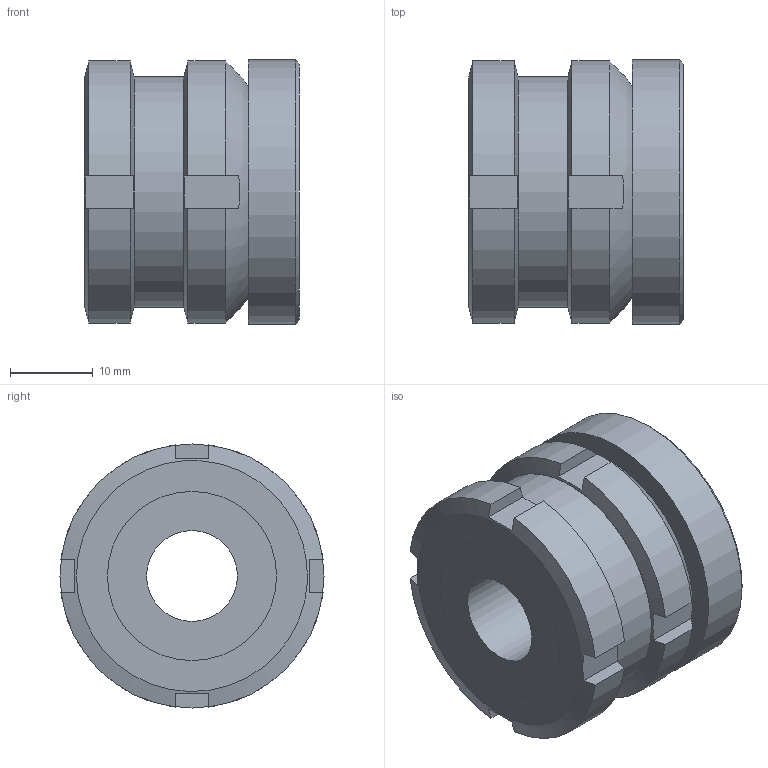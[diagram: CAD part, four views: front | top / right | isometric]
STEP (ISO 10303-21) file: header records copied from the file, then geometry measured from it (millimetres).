
FILE_DESCRIPTION( ( 'STEP AP203' ), '1' );
FILE_NAME( 'C:/Temp/Ganter_Step_05_03_2020/data/3_2/gn350_2/gn_350_2_ni/Stainless Steel-Levelling set GN 350.2-32-11-26-NI (0-0).stp', '2020-03-13T05:28:07', ( 'License CC BY-ND 4.0' ), ( 'CADENAS' ), ' ', 'PARTsolutions', ' ' );
FILE_SCHEMA( ( 'CONFIG_CONTROL_DESIGN' ) );
Length unit declared in the file: millimetre
Products named in the file (4): Stainless Steel-Levelling set GN 350.2-32-11-26-NI (0-0); _Levelling set GN 350.2-32-11-26-ST-G; _Levelling set GN 350.2-32-11-26-ST-K; _Levelling set GN 350.2-32-11-26-ST-P(0)
Assembly tree (3 placements, depth 2):
  Stainless Steel-Levelling set GN 350.2-32-11-26-NI (0-0)
    _Levelling set GN 350.2-32-11-26-ST-G
    _Levelling set GN 350.2-32-11-26-ST-K
    _Levelling set GN 350.2-32-11-26-ST-P(0)
Bounding box: 26 x 32 x 32 mm (x, y, z)
Volume: 16222.3 mm3; surface area: 8915.3 mm2
Topology: 3 solids, 3 shells, 61 faces, 147 edges, 98 vertices
Faces by surface type: plane 36, cylinder 19, cone 4, sphere 2
Full cylindrical faces by diameter (mm): 11 x1, 15 x1, 16.473 x1, 17.5 x1, 18.917 x1, 20 x2, 20.5 x2, 28 x1, 32 x1
Entity records: 1905 total; most frequent: CARTESIAN_POINT 459, DIRECTION 272, ORIENTED_EDGE 246, EDGE_CURVE 123, AXIS2_PLACEMENT_3D 120, VERTEX_POINT 91, EDGE_LOOP 90, FACE_OUTER_BOUND 74
